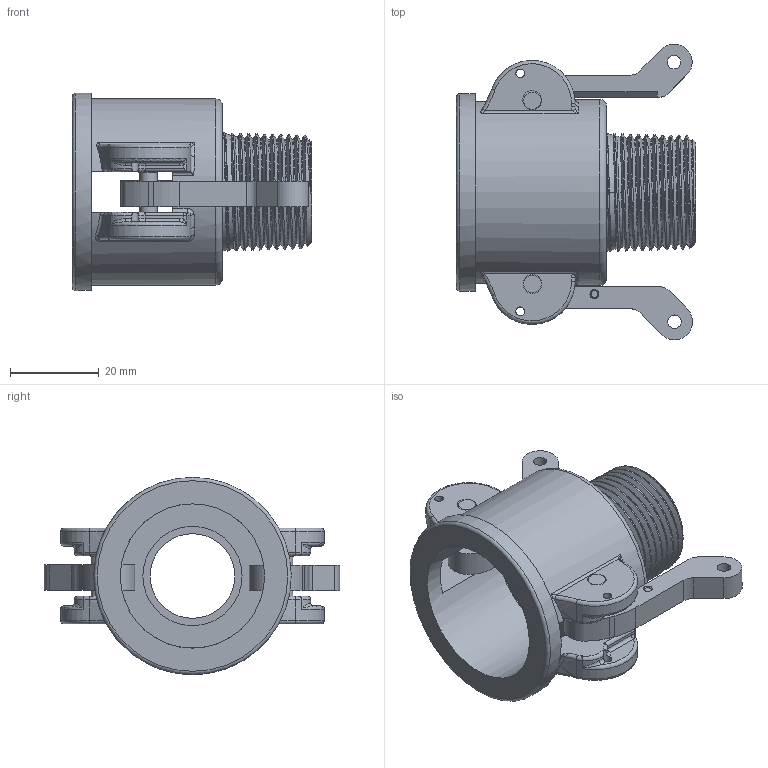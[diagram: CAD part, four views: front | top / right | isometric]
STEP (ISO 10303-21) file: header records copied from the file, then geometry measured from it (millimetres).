
FILE_DESCRIPTION(/* description */ ('Alibre Inc.'),/* implementation_level */ '2;1');
FILE_NAME(/* name */ 'export0',/* time_stamp */ '2015-12-30T13:26:24-05:00',/* author */ (''),/* organization */ (''),/* preprocessor_version */ 'ST-DEVELOPER v14',/* originating_system */ 'Alibre',/* authorisation */ '');
FILE_SCHEMA (('CONFIG_CONTROL_DESIGN'));
Length unit declared in the file: centimetre
Products named in the file (5): ID_1; ID_2; ID_3; ID_4
Bounding box: 53.85 x 66.57 x 44.45 mm (x, y, z)
Volume: 33572.3 mm3; surface area: 20958.8 mm2
Topology: 6 solids, 6 shells, 251 faces, 659 edges, 413 vertices
Faces by surface type: cylinder 71, plane 67, torus 41, cone 36, bspline 35, sphere 1
Full cylindrical faces by diameter (mm): 1.981 x4, 3.048 x2, 3.962 x6, 4.216 x2, 4.242 x2, 19.05 x1, 22.352 x1, 32.512 x1, 35.052 x1, 35.814 x1, 41.91 x1, 44.45 x1
Entity records: 34396 total; most frequent: CARTESIAN_POINT 28998, ORIENTED_EDGE 1110, DIRECTION 807, EDGE_CURVE 555, AXIS2_PLACEMENT_3D 362, VERTEX_POINT 360, EDGE_LOOP 271, FACE_BOUND 271
